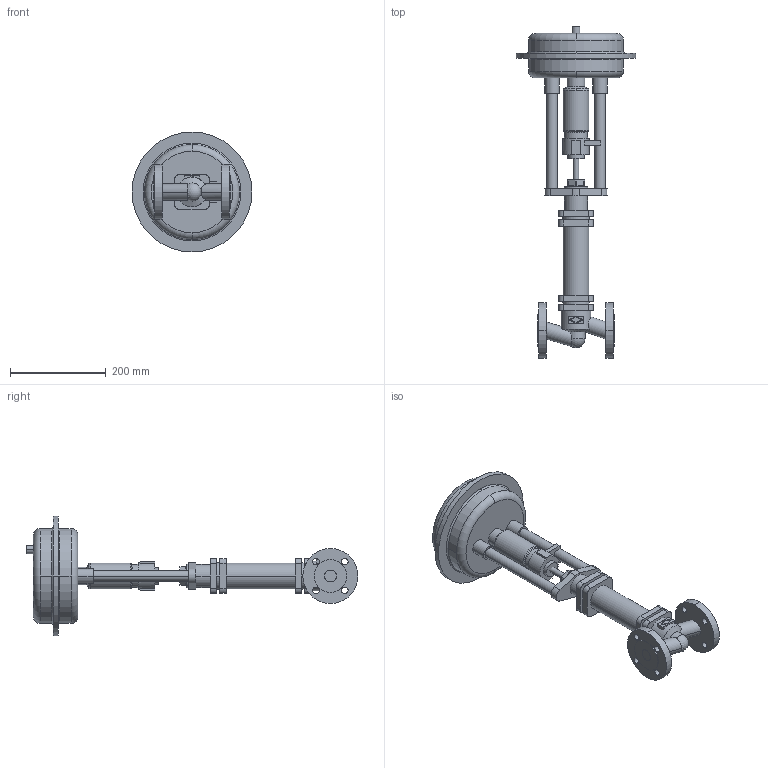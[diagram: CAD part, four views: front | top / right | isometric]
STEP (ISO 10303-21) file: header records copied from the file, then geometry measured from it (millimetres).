
FILE_DESCRIPTION( ( '' ), '1' );
FILE_NAME( 'F:/DE-SHS/TB/OR/04-Sonstiges/daten/files_3d/440-441/Figur441_DN25_PN40_DP32.stp', '2015-03-31T09:21:11', ( '' ), ( '' ), ' ', ' ', ' ' );
FILE_SCHEMA( ( 'CONFIG_CONTROL_DESIGN' ) );
Length unit declared in the file: millimetre
Products named in the file (2): 1; 2
Bounding box: 250 x 692.5 x 250 mm (x, y, z)
Volume: 4898619.1 mm3; surface area: 377143.1 mm2
Topology: 2 solids, 2 shells, 217 faces, 552 edges, 369 vertices
Faces by surface type: cylinder 102, plane 92, torus 16, cone 6, sphere 1
Entity records: 7108 total; most frequent: CARTESIAN_POINT 1478, DIRECTION 1250, ORIENTED_EDGE 1100, EDGE_CURVE 550, AXIS2_PLACEMENT_3D 495, VERTEX_POINT 369, CIRCLE 272, EDGE_LOOP 265
